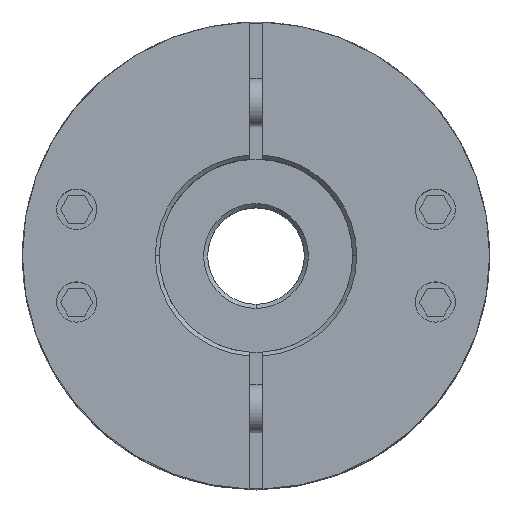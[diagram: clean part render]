
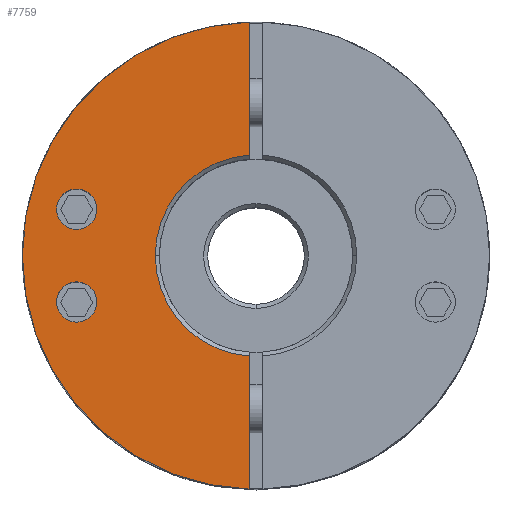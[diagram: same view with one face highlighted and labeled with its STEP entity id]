
A CAD part, top view. The second image highlights one B-rep face of the part: STEP entity #7759.
In plain terms, the highlighted planar face has unit normal (0, 0, 1).
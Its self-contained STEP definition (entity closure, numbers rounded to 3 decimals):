
#4373=CARTESIAN_POINT('',(-19.767,-5.759,27.125));
#4374=VERTEX_POINT('',#4373);
#4383=CARTESIAN_POINT('',(-24.767,-5.759,27.125));
#4384=VERTEX_POINT('',#4383);
#4385=CARTESIAN_POINT('',(-22.267,-5.759,27.125));
#4386=DIRECTION('',(0.0,0.0,-1.0));
#4387=DIRECTION('',(1.0,0.0,0.0));
#4388=AXIS2_PLACEMENT_3D('',#4385,#4386,#4387);
#4389=CIRCLE('',#4388,2.5);
#4390=EDGE_CURVE('',#4384,#4374,#4389,.T.);
#4499=CARTESIAN_POINT('',(-19.767,5.759,27.125));
#4500=VERTEX_POINT('',#4499);
#4509=CARTESIAN_POINT('',(-24.767,5.759,27.125));
#4510=VERTEX_POINT('',#4509);
#4511=CARTESIAN_POINT('',(-22.267,5.759,27.125));
#4512=DIRECTION('',(0.0,0.0,-1.0));
#4513=DIRECTION('',(1.0,0.0,0.0));
#4514=AXIS2_PLACEMENT_3D('',#4511,#4512,#4513);
#4515=CIRCLE('',#4514,2.5);
#4516=EDGE_CURVE('',#4510,#4500,#4515,.T.);
#4728=CARTESIAN_POINT('',(-29.0,0.,27.125));
#4729=VERTEX_POINT('',#4728);
#4736=CARTESIAN_POINT('',(-0.75,28.99,27.125));
#4737=VERTEX_POINT('',#4736);
#4738=CARTESIAN_POINT('',(0.0,0.0,27.125));
#4739=DIRECTION('',(0.0,0.0,-1.0));
#4740=DIRECTION('',(1.0,0.0,0.0));
#4741=AXIS2_PLACEMENT_3D('',#4738,#4739,#4740);
#4742=CIRCLE('',#4741,29.0);
#4743=EDGE_CURVE('',#4729,#4737,#4742,.T.);
#5090=CARTESIAN_POINT('',(-12.5,0.,27.125));
#5091=VERTEX_POINT('',#5090);
#5107=CARTESIAN_POINT('',(-0.75,12.477,27.125));
#5108=VERTEX_POINT('',#5107);
#5122=CARTESIAN_POINT('',(0.0,0.0,27.125));
#5123=DIRECTION('',(0.0,0.0,1.0));
#5124=DIRECTION('',(-1.0,0.0,0.0));
#5125=AXIS2_PLACEMENT_3D('',#5122,#5123,#5124);
#5126=CIRCLE('',#5125,12.5);
#5127=EDGE_CURVE('',#5108,#5091,#5126,.T.);
#7512=CARTESIAN_POINT('',(-0.75,-12.477,27.125));
#7513=VERTEX_POINT('',#7512);
#7514=CARTESIAN_POINT('',(0.0,0.0,27.125));
#7515=DIRECTION('',(0.0,0.0,1.0));
#7516=DIRECTION('',(-1.0,0.0,0.0));
#7517=AXIS2_PLACEMENT_3D('',#7514,#7515,#7516);
#7518=CIRCLE('',#7517,12.5);
#7519=EDGE_CURVE('',#5091,#7513,#7518,.T.);
#7552=CARTESIAN_POINT('',(-0.75,12.477,27.125));
#7553=DIRECTION('',(0.0,1.0,0.0));
#7554=VECTOR('',#7553,16.513);
#7555=LINE('',#7552,#7554);
#7556=EDGE_CURVE('',#5108,#4737,#7555,.T.);
#7666=CARTESIAN_POINT('',(-0.75,-28.99,27.125));
#7667=VERTEX_POINT('',#7666);
#7668=CARTESIAN_POINT('',(-0.75,-28.99,27.125));
#7669=DIRECTION('',(0.0,1.0,0.0));
#7670=VECTOR('',#7669,16.513);
#7671=LINE('',#7668,#7670);
#7672=EDGE_CURVE('',#7667,#7513,#7671,.T.);
#7720=CARTESIAN_POINT('',(2.636,0.,27.125));
#7721=DIRECTION('',(0.0,0.0,1.0));
#7722=DIRECTION('',(1.0,0.0,0.0));
#7723=AXIS2_PLACEMENT_3D('',#7720,#7721,#7722);
#7724=PLANE('',#7723);
#7725=ORIENTED_EDGE('',*,*,#5127,.F.);
#7726=ORIENTED_EDGE('',*,*,#7556,.T.);
#7727=ORIENTED_EDGE('',*,*,#4743,.F.);
#7728=CARTESIAN_POINT('',(0.0,0.0,27.125));
#7729=DIRECTION('',(0.0,0.0,-1.0));
#7730=DIRECTION('',(1.0,0.0,0.0));
#7731=AXIS2_PLACEMENT_3D('',#7728,#7729,#7730);
#7732=CIRCLE('',#7731,29.0);
#7733=EDGE_CURVE('',#7667,#4729,#7732,.T.);
#7734=ORIENTED_EDGE('',*,*,#7733,.F.);
#7735=ORIENTED_EDGE('',*,*,#7672,.T.);
#7736=ORIENTED_EDGE('',*,*,#7519,.F.);
#7737=EDGE_LOOP('',(#7725,#7726,#7727,#7734,#7735,#7736));
#7738=FACE_OUTER_BOUND('',#7737,.T.);
#7739=CARTESIAN_POINT('',(-22.267,-5.759,27.125));
#7740=DIRECTION('',(0.0,0.0,-1.0));
#7741=DIRECTION('',(1.0,0.0,0.0));
#7742=AXIS2_PLACEMENT_3D('',#7739,#7740,#7741);
#7743=CIRCLE('',#7742,2.5);
#7744=EDGE_CURVE('',#4374,#4384,#7743,.T.);
#7745=ORIENTED_EDGE('',*,*,#7744,.T.);
#7746=ORIENTED_EDGE('',*,*,#4390,.T.);
#7747=EDGE_LOOP('',(#7745,#7746));
#7748=FACE_BOUND('',#7747,.T.);
#7749=CARTESIAN_POINT('',(-22.267,5.759,27.125));
#7750=DIRECTION('',(0.0,0.0,-1.0));
#7751=DIRECTION('',(1.0,0.0,0.0));
#7752=AXIS2_PLACEMENT_3D('',#7749,#7750,#7751);
#7753=CIRCLE('',#7752,2.5);
#7754=EDGE_CURVE('',#4500,#4510,#7753,.T.);
#7755=ORIENTED_EDGE('',*,*,#7754,.T.);
#7756=ORIENTED_EDGE('',*,*,#4516,.T.);
#7757=EDGE_LOOP('',(#7755,#7756));
#7758=FACE_BOUND('',#7757,.T.);
#7759=ADVANCED_FACE('',(#7738,#7748,#7758),#7724,.T.);
